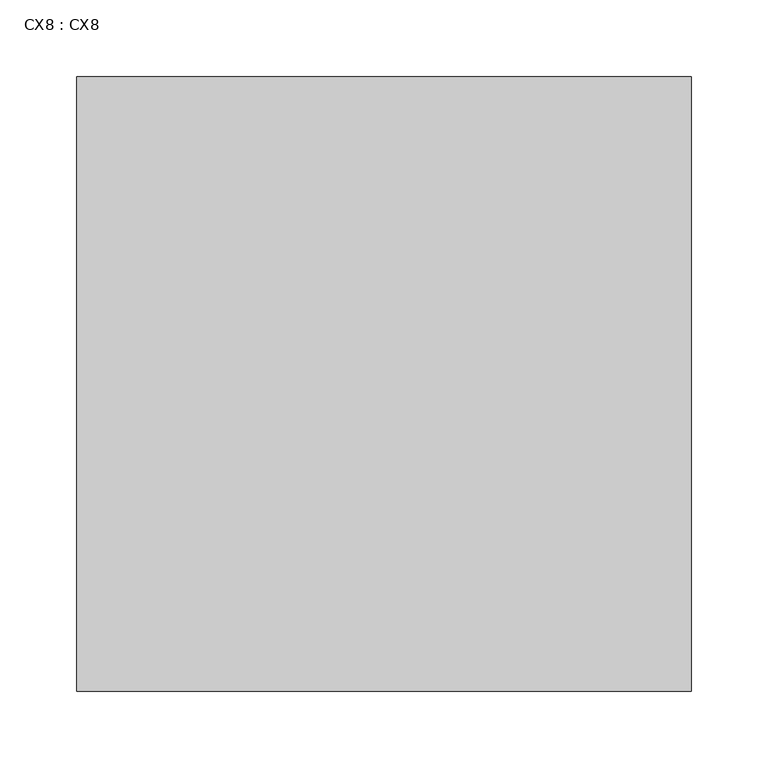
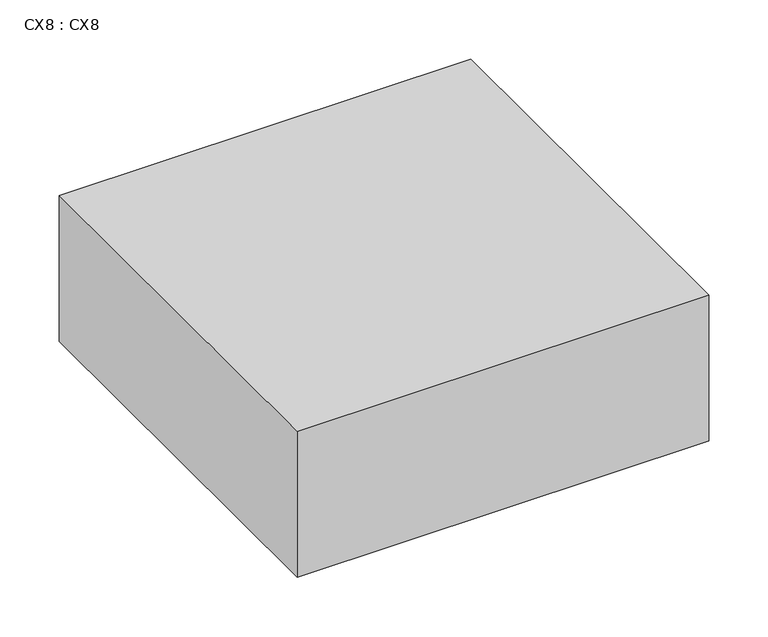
"""IFC4 building model written with IfcOpenShell, lengths in millimetres: proxy geometry, CX8 : CX8."""

from ifc_helpers import new_model, si_unit, frame, origin, place, context, project, spatial, polyline, outline, extrude, source, transform, mapped, element, save


def cx8_cx8_f61dc5f8(model_context):
    return source(origin(), model_context, "Body", "SweptSolid", [
        extrude(outline(polyline([(4368.5, 14966.3), (4768.5, 14966.3), (4768.5, 14566.3), (4368.5, 14566.3), (4368.5, 14966.3)])), frame((0.0, 0.0, 2870.0), z_axis=(0.0, 0.0, 1.0), x_axis=(1.0, 0.0, 0.0)), (0.0, 0.0, 1.0), 150.0),
    ])


if __name__ == "__main__":
    model = new_model("IFC4")
    model_context = context("Model", 3, world=origin())
    ifc_project = project(units=[si_unit("LENGTHUNIT", "METRE", prefix="MILLI")], contexts=[model_context])
    site = spatial("IfcSite", under=ifc_project)
    building = spatial("IfcBuilding", under=site)
    placement = place(None, origin())
    cx8_cx8_shape = cx8_cx8_f61dc5f8(model_context)
    element("IfcBuildingElementProxy", 1, Name="CX8 : CX8", ObjectType="CX8 : CX8", at=placement, inside=building, context=model_context, shape_type="MappedRepresentation", body=[
        mapped(cx8_cx8_shape, transform((0.0, 0.0, 0.0), x_axis=(1.0, 0.0, 0.0), y_axis=(0.0, 1.0, 0.0), z_axis=(0.0, 0.0, 1.0))),
    ])
    save(model, "model.ifc")
